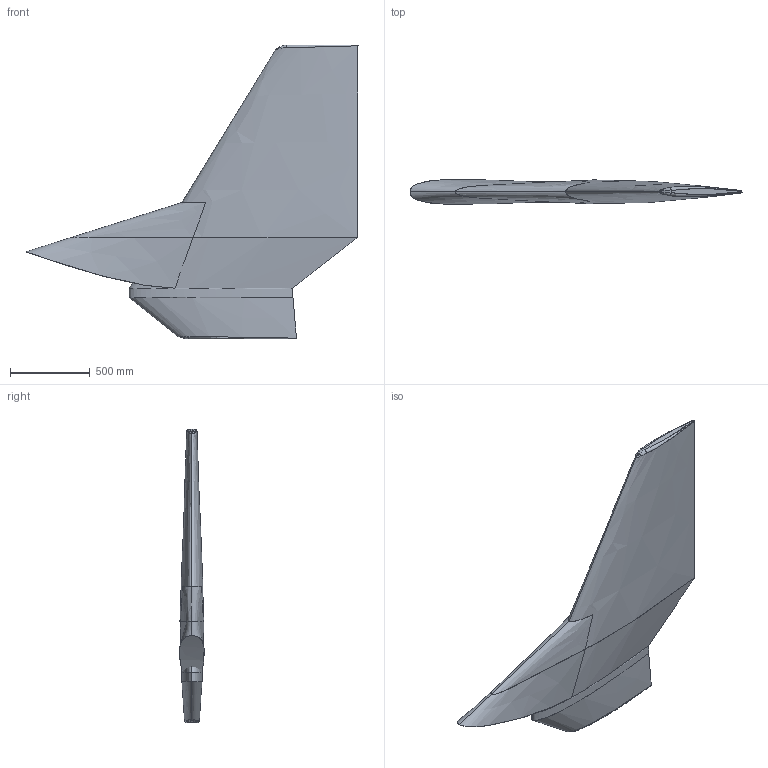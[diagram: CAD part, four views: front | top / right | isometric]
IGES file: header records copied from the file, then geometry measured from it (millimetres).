
Start section: START RECORD GO HERE.
Global section: file name: VERTCAL-TAIL.igs; native system: DASSAULT SYSTEMES CATIA V5 R20 - www.3ds.com; preprocessor: CATIA Version 5 Release 20 ; author: omo; organization: ACE; date: 20220614.121226; units: millimetre
Bounding box: 2087.12 x 154.01 x 1847.25 mm (x, y, z)
Surface area: 4509223.9 mm2 (no closed solid volume)
Topology: 0 solids, 0 shells, 38 faces, 170 edges, 170 vertices
Faces by surface type: bspline 29, plane 5, extrusion 2, revolution 2
